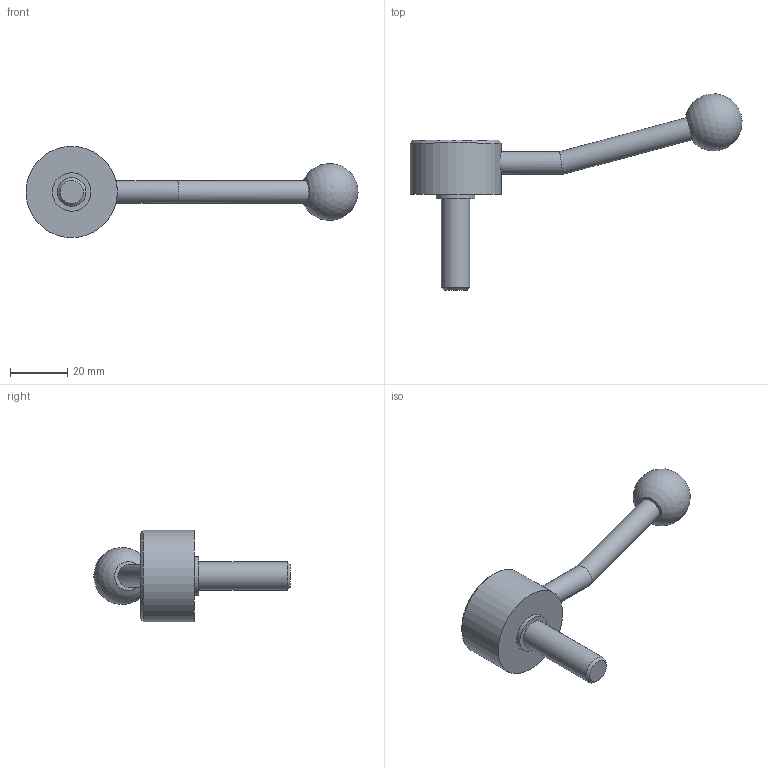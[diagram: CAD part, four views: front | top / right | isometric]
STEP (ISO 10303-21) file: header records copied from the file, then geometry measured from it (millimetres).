
FILE_DESCRIPTION( ( 'STEP AP203' ), '1' );
FILE_NAME( 'C:/Temp/Ganter_Step_05_03_2020/data/2_1/gn_125/gn_125_ms/gn_125_ms_e/Flat Adjustable Lever GN 125-32-M10-32-E.stp', '2020-03-05T11:00:55', ( 'License CC BY-ND 4.0' ), ( 'CADENAS' ), ' ', 'PARTsolutions', ' ' );
FILE_SCHEMA( ( 'CONFIG_CONTROL_DESIGN' ) );
Length unit declared in the file: millimetre
Products named in the file (1): _Flat Adjustable Lever GN 125-32-M10-32-E
Bounding box: 116.33 x 68.72 x 32 mm (x, y, z)
Volume: 25388.6 mm3; surface area: 7381.4 mm2
Topology: 1 solids, 1 shells, 15 faces, 26 edges, 17 vertices
Faces by surface type: cylinder 6, plane 6, cone 2, sphere 1
Full cylindrical faces by diameter (mm): 8 x2, 10 x1, 13.5 x1, 22 x1, 32 x1
Entity records: 404 total; most frequent: CARTESIAN_POINT 110, DIRECTION 58, AXIS2_PLACEMENT_3D 29, EDGE_LOOP 28, ORIENTED_EDGE 28, FACE_OUTER_BOUND 21, ADVANCED_FACE 15, VERTEX_POINT 15
